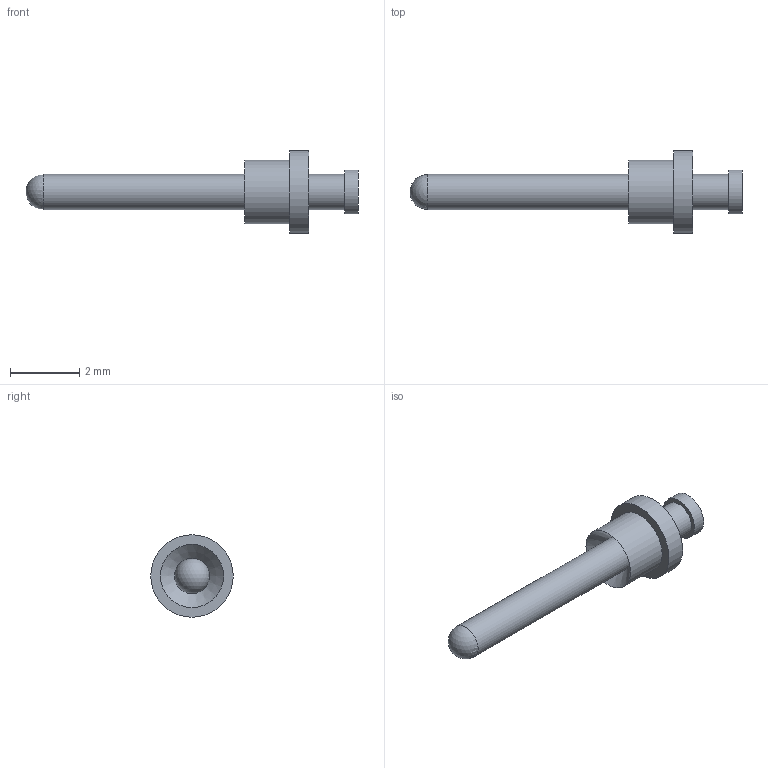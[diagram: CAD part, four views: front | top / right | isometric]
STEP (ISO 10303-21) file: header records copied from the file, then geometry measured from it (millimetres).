
FILE_DESCRIPTION(/* description */ (''),/* implementation_level */ '2;1');
FILE_NAME(/* name */ 'Z:\STEP folder\120-1031-01.ipt.stp',/* time_stamp */ '2016-12-07T10:26:44+00:00',/* author */ ('Paul Karlsons'),/* organization */ (''),/* preprocessor_version */ 'ST-DEVELOPER v15.2',/* originating_system */ 'Autodesk Inventor 2014',/* authorisation */ '');
FILE_SCHEMA (('AUTOMOTIVE_DESIGN { 1 0 10303 214 3 1 1 }'));
Length unit declared in the file: millimetre
Products named in the file (1): 120-1031-01
Bounding box: 9.62 x 2.39 x 2.39 mm (x, y, z)
Volume: 11.9 mm3; surface area: 47.8 mm2
Topology: 1 solids, 1 shells, 11 faces, 20 edges, 12 vertices
Faces by surface type: cylinder 5, plane 4, sphere 1, cone 1
Full cylindrical faces by diameter (mm): 1.016 x2, 1.27 x1, 1.829 x1, 2.388 x1
Entity records: 235 total; most frequent: DIRECTION 44, CARTESIAN_POINT 32, AXIS2_PLACEMENT_3D 22, EDGE_LOOP 20, ORIENTED_EDGE 20, ADVANCED_FACE 11, FACE_BOUND 10, FACE_OUTER_BOUND 10
